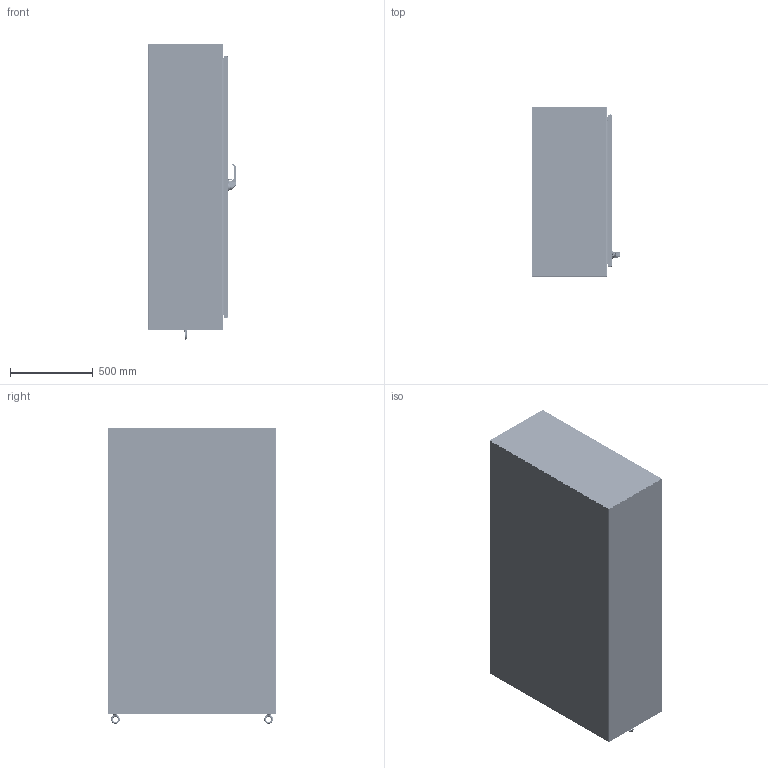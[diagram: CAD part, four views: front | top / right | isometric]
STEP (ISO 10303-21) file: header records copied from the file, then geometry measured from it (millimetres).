
FILE_DESCRIPTION((''),'2;1');
FILE_NAME('MODEL-461_ASM','2026-03-11T16:03:53',('joshi'),('SAGINAW CONTROL & ENGINEERING'),'CREO PARAMETRIC BY PTC INC, 2021284','CREO PARAMETRIC BY PTC INC, 2021284','');
FILE_SCHEMA(('AUTOMOTIVE_DESIGN { 1 0 10303 214 1 1 1 1 }'));
Length unit declared in the file: inch
Products named in the file (67): MODEL-461-L-SD; MODEL-461-TP; MODEL-461-R-SD; MODEL-461-BTM; MODEL-461-DR; 100837; 111267; 100882; 100953_SCREW_MTG; 100953_PADLOCK_CATCH; 100953_SCREW_LARGE; 100953_INSERT_SHAFT; 100953_INSERT_PCH; 100953_GASKET; 100953_O-RING; 100953_BASE; 100953_SPRING; 100953_HANDLE; 100953_CAM_SHAFT; 100953_HANDLE_ASM; 100953_CAM_ADAPTER; 100953_EARTH_NUT; 100953_FLANGE_NUT; 100953_CAM_NUT; 100953_CP_INSERT; 100953_SPRING_CAM; 100953_TORSION_SPRING; 100953_SCREW_INSERT; 100953_ASM; 102237; 100030; 102237_ASM; MODEL-461-ROD-UPR; 128146; 128145; 128144; 102482; MODEL-461-ROD-UPR_ASM; 128143; 112504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
Assembly tree (131 placements, depth 5):
  MODEL-461_ASM
    MODEL-461-L-SD
    MODEL-461-TP
    MODEL-461-R-SD
    MODEL-461-BTM
    MODEL-461-DOOR-ASSY_ASM
      MODEL-461-DR
      100837  x7
      111267
      100882  x12
      100953_ASM
        100953_SCREW_MTG
        100953_PADLOCK_CATCH
        100953_SCREW_LARGE  x2
        100953_INSERT_SHAFT
        100953_INSERT_PCH
        100953_GASKET
        100953_O-RING
        100953_BASE
        100953_SPRING
        100953_HANDLE_ASM
          100953_HANDLE
          100953_CAM_SHAFT
        100953_CAM_ADAPTER
        100953_EARTH_NUT
        100953_FLANGE_NUT
        100953_CAM_NUT
        100953_CP_INSERT
        100953_SPRING_CAM
        100953_TORSION_SPRING
        100953_SCREW_INSERT
      102237_ASM
        102237
        100030  x2
      MODEL-461-ROD-UPR_ASM
        MODEL-461-ROD-UPR
        128146
        128145
        128144
        102482  x2
      128143  x2
      112504  x2
      MODEL-461-ROD-LWR_ASM
        MODEL-461-ROD-LWR
        128146
        128145
        128144
        102482  x2
      MODEL-461-PR-GSKT
      128258_ASM  x4
        128258
      126395  x4
      102483  x4
      101383_ASM  x4
        101383
        101383-STUD
      101221  x4
    MODEL-461-BCK
    100837  x4
    103357
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Bounding box: 535.27 x 1022.35 x 1788.36 mm (x, y, z)
Volume: 22758399.2 mm3; surface area: 16485274.6 mm2
Topology: 135 solids, 135 shells, 12340 faces, 31418 edges, 19342 vertices
Faces by surface type: plane 4164, cylinder 3166, bspline 3010, torus 940, cone 700, sphere 330, extrusion 30
Entity records: 357945 total; most frequent: CARTESIAN_POINT 150261, ORIENTED_EDGE 32266, DIRECTION 28986, PRESENTATION_STYLE_ASSIGNMENT 16167, STYLED_ITEM 16162, EDGE_CURVE 16133, CURVE_STYLE 16085, AXIS2_PLACEMENT_3D 10833
